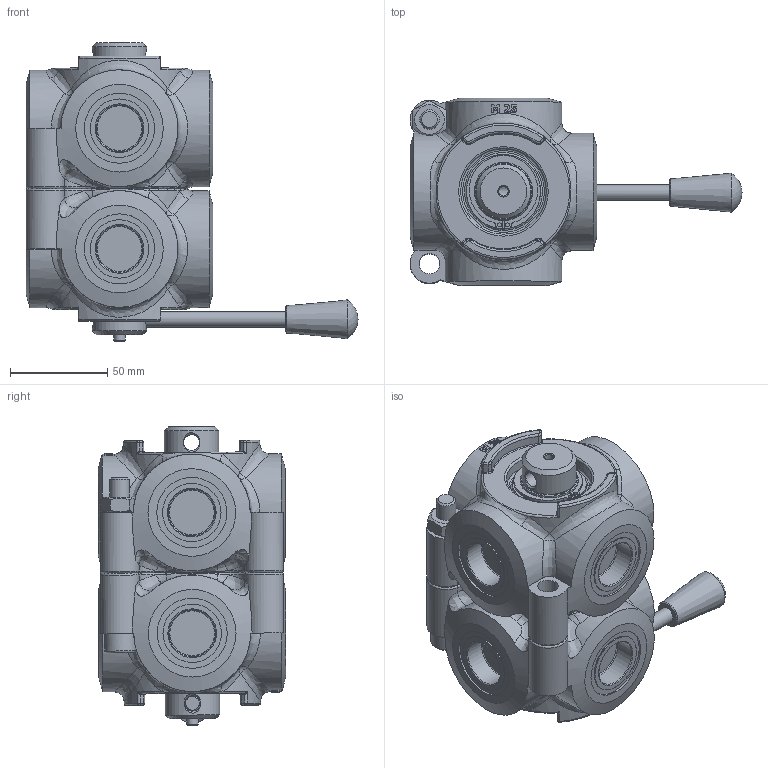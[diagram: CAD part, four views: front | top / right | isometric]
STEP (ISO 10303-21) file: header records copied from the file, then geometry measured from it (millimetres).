
FILE_DESCRIPTION((''),'2;1');
FILE_NAME('G:\HV_HYDRAULIC\AZIENDA_HV_HYDRAULIC\ARCHIVIO_DISEGNI\5_PRODOTTI_FINITI\2_DEVIATORI_INVERTITORI\7005_D8\7005.0102_D8_3-4_G_ca_(HV)\7005.0102.stp','2024-08-30T08:31:19',('christian.scardovi'),(''),'Autodesk Inventor 2013','Autodesk Inventor 2013','');
FILE_SCHEMA(('AUTOMOTIVE_DESIGN { 1 0 10303 214 1 1 1 1 }'));
Length unit declared in the file: millimetre
Products named in the file (1): 7005.0102
Bounding box: 170.5 x 96.34 x 153.3 mm (x, y, z)
Volume: 865658.9 mm3; surface area: 84912.9 mm2
Topology: 1 solids, 1 shells, 538 faces, 1282 edges, 777 vertices
Faces by surface type: plane 147, cylinder 132, bspline 125, torus 87, cone 26, sphere 21
Full cylindrical faces by diameter (mm): 2 x4, 4.917 x1, 6 x1, 8 x3, 10 x1, 10.5 x1, 16 x1, 24 x8, 28 x2, 28.6 x2, 29.9 x2, 30 x8, 36 x8, 38 x2, 44 x2, 60 x2
Entity records: 32175 total; most frequent: CARTESIAN_POINT 20514, ORIENTED_EDGE 2286, DIRECTION 2092, EDGE_CURVE 1143, AXIS2_PLACEMENT_3D 911, VERTEX_POINT 758, EDGE_LOOP 695, FACE_OUTER_BOUND 538
